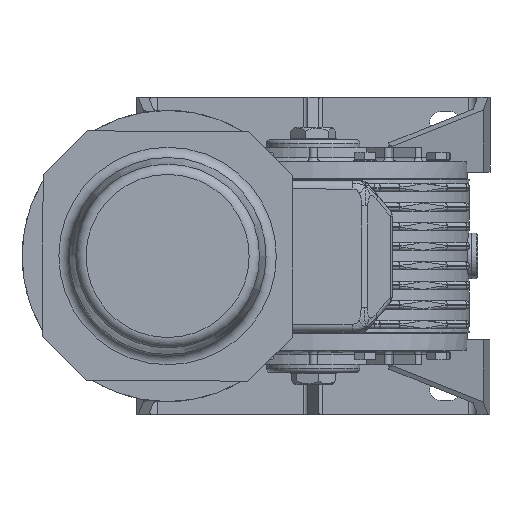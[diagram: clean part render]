
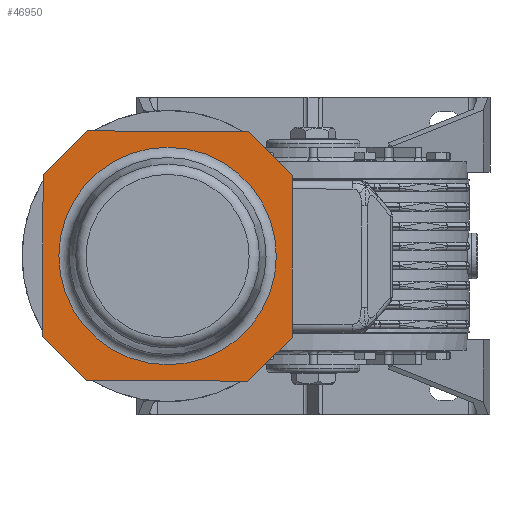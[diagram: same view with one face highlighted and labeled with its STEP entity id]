
A CAD part, left-side view. The second image highlights one B-rep face of the part: STEP entity #46950.
In plain terms, the highlighted planar face has unit normal (-1, 0, 0) as drawn and (1, 0, 0) by its records, which use the part's own axes.
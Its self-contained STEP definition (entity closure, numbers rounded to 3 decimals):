
#46844=CARTESIAN_POINT('',(176.0,0.,52.284));
#46845=VERTEX_POINT('',#46844);
#46846=CARTESIAN_POINT('',(176.0,0.0,0.0));
#46847=DIRECTION('',(1.0,0.0,0.0));
#46848=DIRECTION('',(0.0,0.0,-1.0));
#46849=AXIS2_PLACEMENT_3D('',#46846,#46847,#46848);
#46850=CIRCLE('',#46849,52.284);
#46851=EDGE_CURVE('',#46845,#46845,#46850,.T.);
#46876=CARTESIAN_POINT('',(176.0,26.4,0.0));
#46877=DIRECTION('',(1.0,0.0,0.0));
#46878=DIRECTION('',(0.0,0.0,-1.0));
#46879=AXIS2_PLACEMENT_3D('',#46876,#46877,#46878);
#46880=PLANE('',#46879);
#46881=CARTESIAN_POINT('',(176.0,-60.0,38.787));
#46882=VERTEX_POINT('',#46881);
#46883=CARTESIAN_POINT('',(176.0,-38.787,60.0));
#46884=VERTEX_POINT('',#46883);
#46885=CARTESIAN_POINT('',(176.0,-60.0,38.787));
#46886=DIRECTION('',(0.0,0.707,0.707));
#46887=VECTOR('',#46886,30.);
#46888=LINE('',#46885,#46887);
#46889=EDGE_CURVE('',#46882,#46884,#46888,.T.);
#46890=ORIENTED_EDGE('',*,*,#46889,.F.);
#46891=CARTESIAN_POINT('',(176.0,-60.0,-38.787));
#46892=VERTEX_POINT('',#46891);
#46893=CARTESIAN_POINT('',(176.0,-60.0,-38.787));
#46894=DIRECTION('',(0.0,0.0,1.0));
#46895=VECTOR('',#46894,77.574);
#46896=LINE('',#46893,#46895);
#46897=EDGE_CURVE('',#46892,#46882,#46896,.T.);
#46898=ORIENTED_EDGE('',*,*,#46897,.F.);
#46899=CARTESIAN_POINT('',(176.0,-38.787,-60.0));
#46900=VERTEX_POINT('',#46899);
#46901=CARTESIAN_POINT('',(176.0,-38.787,-60.0));
#46902=DIRECTION('',(0.0,-0.707,0.707));
#46903=VECTOR('',#46902,30.);
#46904=LINE('',#46901,#46903);
#46905=EDGE_CURVE('',#46900,#46892,#46904,.T.);
#46906=ORIENTED_EDGE('',*,*,#46905,.F.);
#46907=CARTESIAN_POINT('',(176.0,38.787,-60.0));
#46908=VERTEX_POINT('',#46907);
#46909=CARTESIAN_POINT('',(176.0,38.787,-60.0));
#46910=DIRECTION('',(0.0,-1.0,0.0));
#46911=VECTOR('',#46910,77.574);
#46912=LINE('',#46909,#46911);
#46913=EDGE_CURVE('',#46908,#46900,#46912,.T.);
#46914=ORIENTED_EDGE('',*,*,#46913,.F.);
#46915=CARTESIAN_POINT('',(176.0,60.0,-38.787));
#46916=VERTEX_POINT('',#46915);
#46917=CARTESIAN_POINT('',(176.0,60.0,-38.787));
#46918=DIRECTION('',(0.0,-0.707,-0.707));
#46919=VECTOR('',#46918,30.);
#46920=LINE('',#46917,#46919);
#46921=EDGE_CURVE('',#46916,#46908,#46920,.T.);
#46922=ORIENTED_EDGE('',*,*,#46921,.F.);
#46923=CARTESIAN_POINT('',(176.0,60.0,38.787));
#46924=VERTEX_POINT('',#46923);
#46925=CARTESIAN_POINT('',(176.0,60.0,38.787));
#46926=DIRECTION('',(0.0,0.0,-1.0));
#46927=VECTOR('',#46926,77.574);
#46928=LINE('',#46925,#46927);
#46929=EDGE_CURVE('',#46924,#46916,#46928,.T.);
#46930=ORIENTED_EDGE('',*,*,#46929,.F.);
#46931=CARTESIAN_POINT('',(176.0,38.787,60.0));
#46932=VERTEX_POINT('',#46931);
#46933=CARTESIAN_POINT('',(176.0,38.787,60.0));
#46934=DIRECTION('',(0.0,0.707,-0.707));
#46935=VECTOR('',#46934,30.);
#46936=LINE('',#46933,#46935);
#46937=EDGE_CURVE('',#46932,#46924,#46936,.T.);
#46938=ORIENTED_EDGE('',*,*,#46937,.F.);
#46939=CARTESIAN_POINT('',(176.0,-38.787,60.0));
#46940=DIRECTION('',(0.0,1.0,0.0));
#46941=VECTOR('',#46940,77.574);
#46942=LINE('',#46939,#46941);
#46943=EDGE_CURVE('',#46884,#46932,#46942,.T.);
#46944=ORIENTED_EDGE('',*,*,#46943,.F.);
#46945=EDGE_LOOP('',(#46890,#46898,#46906,#46914,#46922,#46930,#46938,#46944));
#46946=FACE_OUTER_BOUND('',#46945,.T.);
#46947=ORIENTED_EDGE('',*,*,#46851,.F.);
#46948=EDGE_LOOP('',(#46947));
#46949=FACE_BOUND('',#46948,.T.);
#46950=ADVANCED_FACE('',(#46946,#46949),#46880,.T.);
